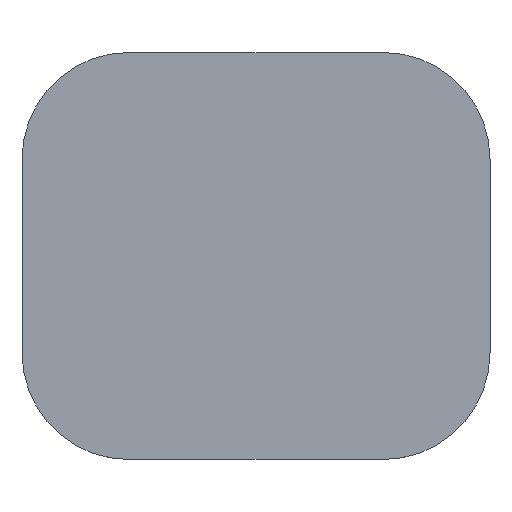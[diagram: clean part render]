
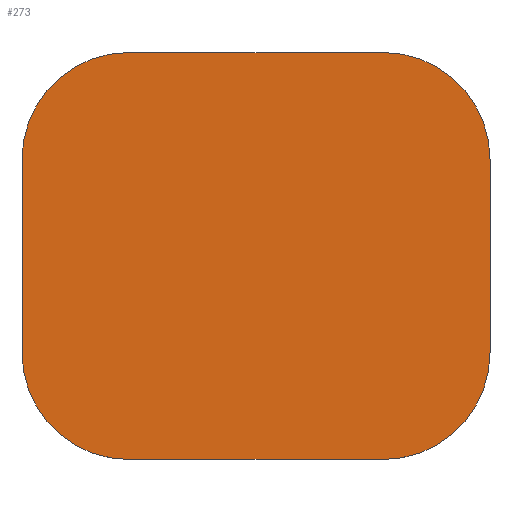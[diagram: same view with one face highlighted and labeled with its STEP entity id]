
A CAD part, top view. The second image highlights one B-rep face of the part: STEP entity #273.
In plain terms, the highlighted planar face has unit normal (0, 0, 1).
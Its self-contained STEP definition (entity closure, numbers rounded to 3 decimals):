
#24 = VERTEX_POINT('',#25);
#25 = CARTESIAN_POINT('',(10.5,0.,0.6));
#41 = VERTEX_POINT('',#42);
#42 = CARTESIAN_POINT('',(0.,10.5,0.6));
#48 = EDGE_CURVE('',#41,#24,#49,.T.);
#49 = CIRCLE('',#50,10.5);
#50 = AXIS2_PLACEMENT_3D('',#51,#52,#53);
#51 = CARTESIAN_POINT('',(10.5,10.5,0.6));
#52 = DIRECTION('',(0.,0.,1.));
#53 = DIRECTION('',(1.,0.,0.));
#72 = EDGE_CURVE('',#24,#73,#75,.T.);
#73 = VERTEX_POINT('',#74);
#74 = CARTESIAN_POINT('',(35.5,0.,0.6));
#75 = LINE('',#76,#77);
#76 = CARTESIAN_POINT('',(10.5,0.,0.6));
#77 = VECTOR('',#78,1.);
#78 = DIRECTION('',(1.,0.,0.));
#104 = VERTEX_POINT('',#105);
#105 = CARTESIAN_POINT('',(0.,29.5,0.6));
#111 = EDGE_CURVE('',#41,#104,#112,.T.);
#112 = LINE('',#113,#114);
#113 = CARTESIAN_POINT('',(0.,10.5,0.6));
#114 = VECTOR('',#115,1.);
#115 = DIRECTION('',(0.,1.,0.));
#128 = VERTEX_POINT('',#129);
#129 = CARTESIAN_POINT('',(46.,10.5,0.6));
#143 = EDGE_CURVE('',#73,#128,#144,.T.);
#144 = CIRCLE('',#145,10.5);
#145 = AXIS2_PLACEMENT_3D('',#146,#147,#148);
#146 = CARTESIAN_POINT('',(35.5,10.5,0.6));
#147 = DIRECTION('',(0.,0.,1.));
#148 = DIRECTION('',(1.,0.,0.));
#168 = VERTEX_POINT('',#169);
#169 = CARTESIAN_POINT('',(10.5,40.,0.6));
#175 = EDGE_CURVE('',#168,#104,#176,.T.);
#176 = CIRCLE('',#177,10.5);
#177 = AXIS2_PLACEMENT_3D('',#178,#179,#180);
#178 = CARTESIAN_POINT('',(10.5,29.5,0.6));
#179 = DIRECTION('',(0.,0.,1.));
#180 = DIRECTION('',(1.,0.,0.));
#200 = EDGE_CURVE('',#168,#201,#203,.T.);
#201 = VERTEX_POINT('',#202);
#202 = CARTESIAN_POINT('',(35.5,40.,0.6));
#203 = LINE('',#204,#205);
#204 = CARTESIAN_POINT('',(10.5,40.,0.6));
#205 = VECTOR('',#206,1.);
#206 = DIRECTION('',(1.,0.,0.));
#232 = VERTEX_POINT('',#233);
#233 = CARTESIAN_POINT('',(46.,29.5,0.6));
#239 = EDGE_CURVE('',#128,#232,#240,.T.);
#240 = LINE('',#241,#242);
#241 = CARTESIAN_POINT('',(46.,10.5,0.6));
#242 = VECTOR('',#243,1.);
#243 = DIRECTION('',(0.,1.,0.));
#261 = EDGE_CURVE('',#232,#201,#262,.T.);
#262 = CIRCLE('',#263,10.5);
#263 = AXIS2_PLACEMENT_3D('',#264,#265,#266);
#264 = CARTESIAN_POINT('',(35.5,29.5,0.6));
#265 = DIRECTION('',(0.,0.,1.));
#266 = DIRECTION('',(1.,0.,0.));
#273 = ADVANCED_FACE('',(#274),#284,.T.);
#274 = FACE_BOUND('',#275,.T.);
#275 = EDGE_LOOP('',(#276,#277,#278,#279,#280,#281,#282,#283));
#276 = ORIENTED_EDGE('',*,*,#48,.T.);
#277 = ORIENTED_EDGE('',*,*,#72,.T.);
#278 = ORIENTED_EDGE('',*,*,#143,.T.);
#279 = ORIENTED_EDGE('',*,*,#239,.T.);
#280 = ORIENTED_EDGE('',*,*,#261,.T.);
#281 = ORIENTED_EDGE('',*,*,#200,.F.);
#282 = ORIENTED_EDGE('',*,*,#175,.T.);
#283 = ORIENTED_EDGE('',*,*,#111,.F.);
#284 = PLANE('',#285);
#285 = AXIS2_PLACEMENT_3D('',#286,#287,#288);
#286 = CARTESIAN_POINT('',(23.,20.,0.6));
#287 = DIRECTION('',(0.,0.,1.));
#288 = DIRECTION('',(1.,0.,0.));
